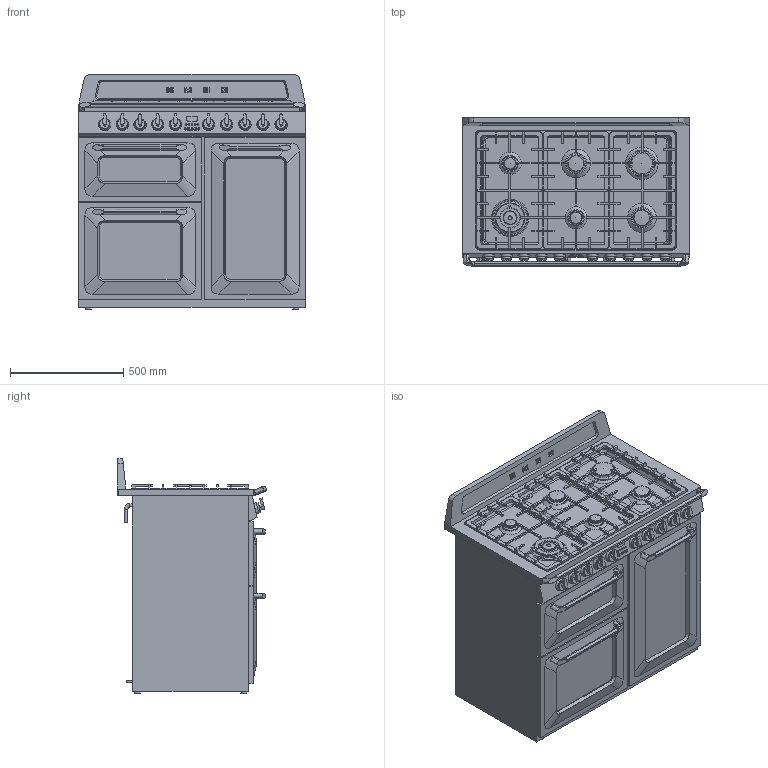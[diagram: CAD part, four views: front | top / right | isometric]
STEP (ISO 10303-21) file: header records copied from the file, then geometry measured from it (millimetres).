
FILE_DESCRIPTION(/* description */ (''),/* implementation_level */ '2;1');
FILE_NAME(/* name */ 'cucina tr103.stp',/* time_stamp */ '2019-04-04T15:58:51+02:00',/* author */ (''),/* organization */ (''),/* preprocessor_version */ 'ST-DEVELOPER v16',/* originating_system */ 'SIEMENS PLM Software NX 11.0',/* authorisation */ '');
FILE_SCHEMA (('AUTOMOTIVE_DESIGN { 1 0 10303 214 3 1 1 1 }'));
Products named in the file (1): gobb1B7CF633fcae
Bounding box: 1000 x 654.56 x 1034 mm (x, y, z)
Volume: 471901757.1 mm3; surface area: 8263906 mm2
Topology: 70 solids, 70 shells, 1692 faces, 4388 edges, 2853 vertices
Faces by surface type: plane 835, cylinder 480, extrusion 194, bspline 70, cone 61, torus 35, sphere 11, revolution 6
Full cylindrical faces by diameter (mm): 6 x5, 7 x1, 15 x2, 26 x4, 27 x10, 43.084 x10, 55 x2, 60.611 x1, 65.5 x2, 75 x2, 85.5 x2, 85.7 x1, 100 x1, 110.5 x1, 131 x1, 147 x1
Entity records: 56904 total; most frequent: CARTESIAN_POINT 15898, ORIENTED_EDGE 8506, DIRECTION 7950, EDGE_CURVE 4253, VERTEX_POINT 2844, VECTOR 2740, AXIS2_PLACEMENT_3D 2602, LINE 2546
